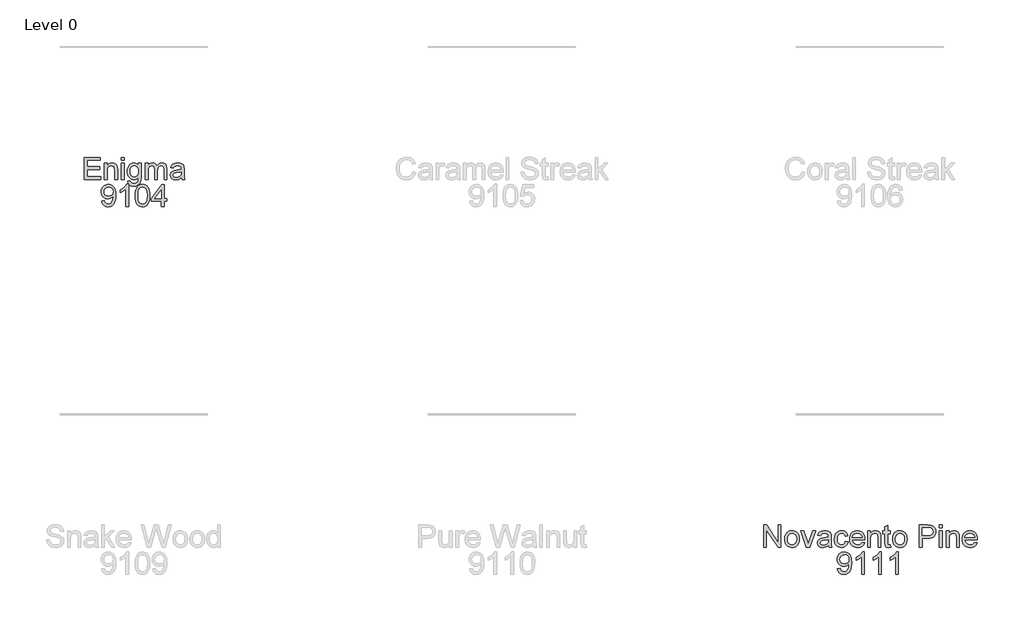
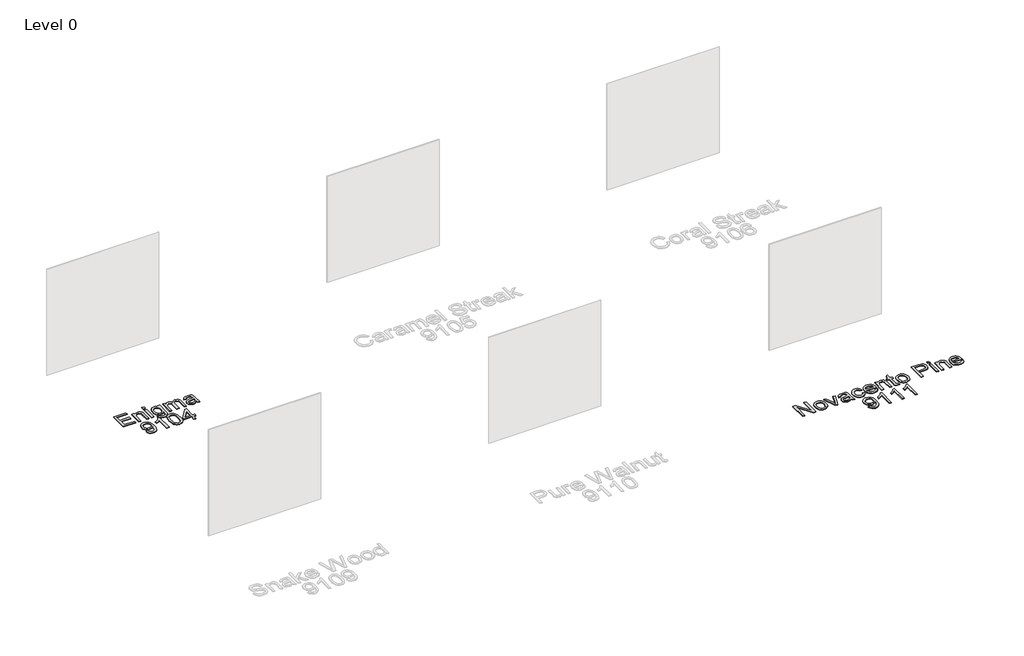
# One storey, part 8 of 10: 2 proxies.
"""IFC4 building model written with IfcOpenShell, lengths in millimetres."""

import ifcopenshell
import ifcopenshell.guid

model = None  # the IFC model being written
_history = None  # IfcOwnerHistory: only IFC2X3 demands one
_inside = {}  # id of a spatial element -> (the spatial element, [elements in it])
_under = {}  # id of a project, library or spatial element -> (it, [spatial elements below it])
_declared = {}  # id of a project -> (the project, [libraries it declares])
_typed = {}  # id of a type object -> (the type object, [elements of that type])
_made_of = {}  # id of a material, layer set ... -> (it, [elements and type objects made of it])


def new_model(schema):
    """Start an empty IFC model of exactly this schema.

    Asked for "IFC4X3", IfcOpenShell would pick the latest addendum, in which some entities
    have other attributes; the version numbers below select the first issue.
    IFC2X3 requires an IfcOwnerHistory on every rooted entity: one is made here for all.
    """
    global model, _history
    if schema == "IFC4X3":
        model = ifcopenshell.file(schema_version=(4, 3, 0, 0))
    else:
        model = ifcopenshell.file(schema=schema)
    _inside.clear()
    _under.clear()
    _declared.clear()
    _typed.clear()
    _made_of.clear()
    _history = None
    if model.schema == "IFC2X3":
        org = make("IfcOrganization", Name="unknown")
        user = make(
            "IfcPersonAndOrganization",
            ThePerson=make("IfcPerson", FamilyName="unknown"),
            TheOrganization=org,
        )
        app = make(
            "IfcApplication",
            ApplicationDeveloper=org,
            Version="unknown",
            ApplicationFullName="unknown",
            ApplicationIdentifier="unknown",
        )
        _history = make(
            "IfcOwnerHistory",
            OwningUser=user,
            OwningApplication=app,
            ChangeAction="ADDED",
            CreationDate=0,
        )
    return model


def make(cls, **values):
    """One entity of the class cls with the attributes given. An attribute that is None is left unset."""
    return model.create_entity(
        cls, **{name: value for name, value in values.items() if value is not None}
    )


def rooted(cls, **values):
    """An entity with a GlobalId (a new one), such as an element, a storey or a relation."""
    return make(cls, GlobalId=ifcopenshell.guid.new(), OwnerHistory=_history, **values)


def si_unit(unit_type, name, prefix=None):
    """IfcSIUnit, for example si_unit("LENGTHUNIT", "METRE", prefix="MILLI")."""
    return make("IfcSIUnit", UnitType=unit_type, Prefix=prefix, Name=name)


def assignment(units):
    """IfcUnitAssignment: the units of a project."""
    return None if units is None else make("IfcUnitAssignment", Units=units)


def point(xyz):
    """IfcCartesianPoint."""
    return None if xyz is None else make("IfcCartesianPoint", Coordinates=xyz)


def direction(xyz):
    """IfcDirection."""
    return None if xyz is None else make("IfcDirection", DirectionRatios=xyz)


def frame(location, z_axis=None, x_axis=None):
    """IfcAxis2Placement3D, a coordinate frame: its origin and axes. An axis left out is left unset."""
    return make(
        "IfcAxis2Placement3D",
        Location=point(location),
        Axis=direction(z_axis),
        RefDirection=direction(x_axis),
    )


def origin():
    """The frame at (0, 0, 0) with its axes left unset."""
    return frame((0.0, 0.0, 0.0))


def origin_with_axes():
    """The frame at (0, 0, 0) with the z axis (0, 0, 1) and the x axis (1, 0, 0) written out."""
    return frame((0.0, 0.0, 0.0), z_axis=(0.0, 0.0, 1.0), x_axis=(1.0, 0.0, 0.0))


def place(relative_to, where):
    """IfcLocalPlacement: puts the frame where relative to a parent placement (None: the world)."""
    return make(
        "IfcLocalPlacement", PlacementRelTo=relative_to, RelativePlacement=where
    )


def context(
    kind, dimensions, precision=None, world=None, true_north=None, identifier=None
):
    """IfcGeometricRepresentationContext, for example the 3D "Model" context."""
    return make(
        "IfcGeometricRepresentationContext",
        ContextIdentifier=identifier,
        ContextType=kind,
        CoordinateSpaceDimension=dimensions,
        Precision=precision,
        WorldCoordinateSystem=world,
        TrueNorth=true_north,
    )


def project(units=None, contexts=None):
    """IfcProject with its units and contexts."""
    return rooted(
        "IfcProject",
        Name="project",
        RepresentationContexts=contexts,
        UnitsInContext=assignment(units),
    )


def spatial(cls, under=None, at=None, **own):
    """A site, building, storey or space (cls), placed at a placement, below another one or the project."""
    s = rooted(cls, ObjectPlacement=at, **own)
    if under is not None:
        _under.setdefault(under.id(), (under, []))[1].append(s)
    return s


def polyline(points):
    """IfcPolyline through the points."""
    return make("IfcPolyline", Points=[point(p) for p in points])


def outline(outer, holes=None, kind="AREA"):
    """IfcArbitraryClosedProfileDef: a profile drawn as a closed curve; with holes, ...WithVoids."""
    if holes is None:
        return make("IfcArbitraryClosedProfileDef", ProfileType=kind, OuterCurve=outer)
    return make(
        "IfcArbitraryProfileDefWithVoids",
        ProfileType=kind,
        OuterCurve=outer,
        InnerCurves=holes,
    )


def extrude(swept, where, along, depth):
    """IfcExtrudedAreaSolid: the profile swept, set in the frame where, extruded along a direction by depth."""
    return make(
        "IfcExtrudedAreaSolid",
        SweptArea=swept,
        Position=where,
        ExtrudedDirection=direction(along),
        Depth=depth,
    )


def shape(context_of_items, identifier, shape_type, items):
    """IfcShapeRepresentation: the items that make up one representation, for example the "Body"."""
    return make(
        "IfcShapeRepresentation",
        ContextOfItems=context_of_items,
        RepresentationIdentifier=identifier,
        RepresentationType=shape_type,
        Items=items,
    )


def made_of(thing, what):
    """Note that an element or type object is made of a material, layer set ...; save() writes the relation."""
    if what is not None:
        _made_of.setdefault(what.id(), (what, []))[1].append(thing)
    return thing


def element(
    cls,
    number,
    at=None,
    inside=None,
    cuts=None,
    type_object=None,
    material=None,
    context=None,
    identifier="Body",
    shape_type=None,
    held_by="IfcProductDefinitionShape",
    body=None,
    shapes=None,
    **own,
):
    """One element of the class cls, such as IfcWall. Its Tag is "e" and its number.

    at: its placement. inside: the storey or other place that contains it. cuts: it is an
    opening in that element (IfcRelVoidsElement). A single representation is given by context,
    identifier, shape_type and body (its items); several are given by shapes. held_by: the class
    of the entity that holds the representations. save() writes the other relations.
    """
    e = rooted(cls, Tag="e%d" % number, ObjectPlacement=at, **own)
    if body is not None:
        shapes = [shape(context, identifier, shape_type, body)]
    if shapes is not None:
        e.Representation = make(held_by, Representations=shapes)
    if inside is not None:
        _inside.setdefault(inside.id(), (inside, []))[1].append(e)
    if cuts is not None:
        rooted(
            "IfcRelVoidsElement", RelatingBuildingElement=cuts, RelatedOpeningElement=e
        )
    if type_object is not None:
        _typed.setdefault(type_object.id(), (type_object, []))[1].append(e)
    return made_of(e, material)


def aggregate(whole, parts):
    """IfcRelAggregates: a whole, such as a stair, and the parts it consists of."""
    return rooted("IfcRelAggregates", RelatingObject=whole, RelatedObjects=parts)


def save(model, path):
    """Write the relations noted so far, then the file.

    IfcRelAggregates (storeys below a building ...), IfcRelContainedInSpatialStructure (elements
    in a storey), IfcRelDefinesByType, IfcRelAssociatesMaterial and IfcRelDeclares: one each for
    every whole, place, type object, material and project.
    """
    for whole, parts in _under.values():
        aggregate(whole, parts)
    for where, things in _inside.values():
        rooted(
            "IfcRelContainedInSpatialStructure",
            RelatedElements=things,
            RelatingStructure=where,
        )
    for kind, things in _typed.values():
        rooted("IfcRelDefinesByType", RelatedObjects=things, RelatingType=kind)
    for what, things in _made_of.values():
        rooted("IfcRelAssociatesMaterial", RelatedObjects=things, RelatingMaterial=what)
    for by, libraries in _declared.values():
        rooted("IfcRelDeclares", RelatingContext=by, RelatedDefinitions=libraries)
    model.write(path)


model = new_model("IFC4")

# Units and contexts
model_context = context("Model", 3, world=origin())
ifc_project = project(units=[si_unit("LENGTHUNIT", "METRE", prefix="MILLI")], contexts=[model_context])

# Site, building, storey
site = spatial("IfcSite", under=ifc_project)
building = spatial("IfcBuilding", under=site)
storey = spatial("IfcBuildingStorey", under=building, Name="Level 0", Elevation=0.0)

# Proxies
placement = place(None, origin())
element("IfcBuildingElementProxy", 1, Name="300mm Arial", ObjectType="300mm Arial", at=placement, inside=storey, context=model_context, shape_type="SweptSolid", body=[
    extrude(outline(polyline([(9108.421745, -12002.860494), (9108.421745, -11701.4915635), (9148.7416117, -11701.4915635), (9306.1951056, -11940.2469784), (9306.1951056, -11701.4915635), (9343.8662219, -11701.4915635), (9343.8662219, -12002.860494), (9303.5463552, -12002.860494), (9146.0928613, -11764.0315027), (9146.0928613, -12002.860494), (9108.421745, -12002.860494)])), origin_with_axes(), (0.0, 0.0, 1.0), 10.0),
    extrude(outline(polyline([(9395.6640068, -11892.2015898), (9397.7011534, -11863.5389839), (9403.812593, -11838.8403064), (9413.9983258, -11818.1055575), (9428.2583516, -11801.334737), (9442.6149465, -11790.6155754), (9458.4614634, -11782.9590314), (9475.7979024, -11778.3651049), (9494.6242635, -11776.8337961), (9515.407297, -11778.698498), (9534.1991692, -11784.2926036), (9550.99988, -11793.6161129), (9565.8094296, -11806.669026), (9577.8966524, -11823.0098843), (9586.530383, -11842.1972296), (9591.7106213, -11864.2310619), (9593.4373674, -11889.1113811), (9590.3839469, -11927.1687735), (9581.2236852, -11956.1394806), (9566.2232968, -11977.8353213), (9545.6494963, -11994.0681143), (9521.2129347, -12004.1940662), (9494.6242635, -12007.5693835), (9473.5377274, -12005.7115794), (9454.5711113, -12000.1381672), (9437.7244152, -11990.8491468), (9422.9976391, -11977.8445183), (9411.039175, -11961.3450108), (9402.4974149, -11941.5713536), (9397.3723588, -11918.5235466), (9395.6640068, -11892.2015898)]), holes=[polyline([(9433.3351231, -11892.1280134), (9437.6945248, -11926.2214773), (9450.7727297, -11950.5108861), (9470.4544164, -11965.0514219), (9494.6242635, -11969.8982672), (9518.683746, -11965.0238308), (9538.3286445, -11950.4005215), (9551.4068495, -11925.789216), (9555.7662511, -11890.950791), (9551.3792583, -11857.8506085), (9538.2182799, -11833.8922936), (9518.5457903, -11819.3517577), (9494.6242635, -11814.5049125), (9470.4544164, -11819.3333636), (9450.7727297, -11833.8187172), (9437.6945248, -11858.0529436), (9433.3351231, -11892.1280134)])]), origin_with_axes(), (0.0, 0.0, 1.0), 10.0),
    extrude(outline(polyline([(9690.1167558, -12002.860494), (9612.2729256, -11781.5426857), (9652.1513339, -11781.5426857), (9699.3138056, -11914.1273567), (9713.5140507, -11958.7146546), (9727.4199901, -11916.6289543), (9774.8767674, -11781.5426857), (9814.7551757, -11781.5426857), (9737.8678387, -12002.860494), (9690.1167558, -12002.860494)])), origin_with_axes(), (0.0, 0.0, 1.0), 10.0),
    extrude(outline(polyline([(9988.9840886, -11974.6071568), (9970.985462, -11990.0398064), (9952.4534065, -12000.1381672), (9932.9648578, -12005.7115794), (9912.0967516, -12007.5693835), (9880.6152499, -12003.0996173), (9857.392699, -11989.6903186), (9843.0728923, -11969.3280501), (9838.2996234, -11943.9993748), (9840.1022452, -11928.3827841), (9845.5101105, -11914.2009331), (9853.8518348, -11902.0608273), (9864.4560333, -11892.5694718), (9890.8331723, -11880.2086368), (9923.4275171, -11874.5432541), (9961.944762, -11868.5835657), (9988.7633594, -11861.5938078), (9988.9840886, -11853.2060983), (9986.3905206, -11836.3938912), (9978.6098164, -11825.3942195), (9961.208998, -11817.2272392), (9936.9655745, -11814.5049125), (9914.5247728, -11816.3167313), (9898.8529998, -11821.7521878), (9888.1660279, -11831.8045633), (9880.6796293, -11847.4671392), (9843.008513, -11842.7582497), (9849.5476154, -11822.156858), (9859.3056853, -11805.9700502), (9873.1932307, -11793.590821), (9892.1207593, -11784.4121652), (9915.2697339, -11778.7283884), (9941.8216169, -11776.8337961), (9967.288248, -11778.5076592), (9987.4757725, -11783.5292485), (10002.69689, -11791.0800264), (10013.2643003, -11800.3414556), (10020.2724523, -11811.7917827), (10024.815795, -11825.9092543), (10026.6552049, -11858.8714811), (10026.6552049, -11905.7396473), (10028.5681913, -11971.1858542), (10036.072984, -12002.860494), (9998.4018677, -12002.860494), (9988.9840886, -11974.6071568)]), holes=[polyline([(9988.9840886, -11899.2649241), (9928.209983, -11910.8164188), (9895.7995793, -11916.9232599), (9881.1210877, -11926.8560738), (9875.9707397, -11941.3506244), (9878.7758399, -11952.5526311), (9887.1911406, -11961.7312869), (9901.0327006, -11967.8565221), (9920.1165791, -11969.8982672), (9940.3500889, -11967.64499), (9958.2291538, -11960.8851583), (9972.7237045, -11950.9247533), (9982.8036711, -11939.069756), (9987.2734374, -11926.8560738), (9988.7633594, -11909.933502), (9988.9840886, -11899.2649241)])]), origin_with_axes(), (0.0, 0.0, 1.0), 10.0),
    extrude(outline(polyline([(10219.719676, -11922.8093718), (10257.3907923, -11927.5182614), (10246.8877614, -11961.0231141), (10227.1508923, -11986.3425924), (10200.0379893, -12002.2626857), (10167.4068563, -12007.5693835), (10146.2789335, -12005.7184772), (10127.33531, -12000.1657584), (10110.5759858, -11990.9112269), (10096.000961, -11977.9548829), (10084.2034453, -11961.5404481), (10075.7766484, -11941.9116444), (10070.7205702, -11919.0684718), (10069.0352108, -11893.0109302), (10071.9138874, -11859.4876834), (10080.5499172, -11830.4342028), (10095.081256, -11806.9725286), (10115.6458596, -11790.2247008), (10140.247968, -11780.1815223), (10166.8918215, -11776.8337961), (10198.7228111, -11781.4323211), (10224.1710482, -11795.2278959), (10242.4271922, -11817.4847566), (10252.6819028, -11847.4671392), (10215.0107865, -11852.1760288), (10208.1773784, -11835.7409006), (10197.5363917, -11823.9594797), (10183.6764375, -11816.8685543), (10167.1861271, -11814.5049125), (10142.8415361, -11819.1586197), (10123.5185343, -11833.1197414), (10110.9093789, -11857.1424357), (10106.7063271, -11891.9808606), (10110.8174084, -11927.2883351), (10123.1506523, -11951.3938029), (10142.1241662, -11965.2721511), (10166.1560575, -11969.8982672), (10185.6630003, -11967.0103936), (10201.6566701, -11958.3467726), (10213.2909381, -11943.6866751), (10219.719676, -11922.8093718)])), origin_with_axes(), (0.0, 0.0, 1.0), 10.0),
    extrude(outline(polyline([(10445.3049155, -11936.9360404), (10482.2402678, -11941.64493), (10468.9321366, -11969.4752029), (10447.6961484, -11990.2789297), (10419.0105499, -12003.2467701), (10383.3535875, -12007.5693835), (10359.9792852, -12005.7046817), (10339.1525657, -12000.1105761), (10320.8734291, -11990.7870668), (10305.1418753, -11977.7341537), (10292.4913332, -11961.3151204), (10283.4552317, -11941.8932503), (10278.0335708, -11919.4685435), (10276.2263505, -11894.0409998), (10278.0519649, -11867.7512327), (10283.5288081, -11844.5792656), (10292.6568801, -11824.5250983), (10305.4361809, -11807.5887309), (10321.126348, -11794.133447), (10338.9870189, -11784.5225298), (10359.0181935, -11778.7559796), (10381.2198719, -11776.8337961), (10402.7064797, -11778.751381), (10422.1375468, -11784.5041357), (10439.5130733, -11794.0920602), (10454.8330591, -11807.5151545), (10467.3387477, -11824.4147337), (10476.2713824, -11844.4321128), (10481.6309632, -11867.5672917), (10483.4174902, -11893.8202706), (10483.196761, -11903.9738137), (10313.8974668, -11903.9738137), (10320.4181751, -11932.1719686), (10335.5657163, -11952.902119), (10357.4271039, -11965.6492302), (10384.0893515, -11969.8982672), (10404.1389202, -11967.9300985), (10421.0247038, -11962.0255925), (10434.7467022, -11951.8168672), (10445.3049155, -11936.9360404)]), holes=[polyline([(10313.8974668, -11866.3026974), (10445.7463739, -11866.3026974), (10440.6512082, -11846.4002814), (10430.663212, -11832.1632482), (10408.7006569, -11818.9194964), (10381.0727191, -11814.5049125), (10355.6796644, -11818.0273826), (10334.6827995, -11828.5947929), (10320.0870813, -11845.0667092), (10313.8974668, -11866.3026974)])]), origin_with_axes(), (0.0, 0.0, 1.0), 10.0),
    extrude(outline(polyline([(10521.0886065, -12002.860494), (10521.0886065, -11781.5426857), (10558.7597228, -11781.5426857), (10558.7597228, -11812.4447733), (10571.8471247, -11796.8649708), (10587.564883, -11785.7365404), (10605.9129975, -11779.0594822), (10626.8914683, -11776.8337961), (10645.460312, -11778.6272209), (10662.4656572, -11784.0074951), (10676.6475081, -11792.303234), (10686.7458689, -11802.8430532), (10698.0398461, -11830.5445674), (10700.0264089, -11866.964885), (10700.0264089, -12002.860494), (10662.3552926, -12002.860494), (10662.3552926, -11872.0416565), (10658.0142851, -11838.7115477), (10652.0086115, -11828.7879309), (10642.6736059, -11821.0900002), (10630.708244, -11816.1511844), (10616.8115016, -11814.5049125), (10594.7477789, -11818.2021265), (10575.9398119, -11829.2937687), (10568.4235229, -11838.3482643), (10563.0547451, -11850.7228949), (10558.7597228, -11885.4325611), (10558.7597228, -12002.860494), (10521.0886065, -12002.860494)])), origin_with_axes(), (0.0, 0.0, 1.0), 10.0),
    extrude(outline(polyline([(10831.875316, -11971.4433716), (10836.5842055, -12003.96414), (10808.4044447, -12007.5693835), (10790.3230446, -12006.005885), (10776.8401695, -12001.3153896), (10767.3120258, -11994.0865084), (10761.0948201, -11984.9078526), (10757.6735176, -11969.1441091), (10756.5330834, -11942.1599648), (10756.5330834, -11819.213802), (10728.2797461, -11819.213802), (10728.2797461, -11781.5426857), (10756.5330834, -11781.5426857), (10756.5330834, -11727.758338), (10794.2041997, -11705.6118419), (10794.2041997, -11781.5426857), (10831.875316, -11781.5426857), (10831.875316, -11819.213802), (10794.2041997, -11819.213802), (10794.2041997, -11941.0563188), (10796.1907625, -11960.4804881), (10802.6286974, -11967.3598814), (10815.467779, -11969.8982672), (10831.875316, -11971.4433716)])), origin_with_axes(), (0.0, 0.0, 1.0), 10.0),
    extrude(outline(polyline([(10860.1286532, -11892.2015898), (10862.1657998, -11863.5389839), (10868.2772394, -11838.8403064), (10878.4629722, -11818.1055575), (10892.722998, -11801.334737), (10907.0795929, -11790.6155754), (10922.9261098, -11782.9590314), (10940.2625488, -11778.3651049), (10959.0889099, -11776.8337961), (10979.8719434, -11778.698498), (10998.6638156, -11784.2926036), (11015.4645264, -11793.6161129), (11030.274076, -11806.669026), (11042.3612988, -11823.0098843), (11050.9950294, -11842.1972296), (11056.1752677, -11864.2310619), (11057.9020138, -11889.1113811), (11054.8485933, -11927.1687735), (11045.6883316, -11956.1394806), (11030.6879432, -11977.8353213), (11010.1141427, -11994.0681143), (10985.6775811, -12004.1940662), (10959.0889099, -12007.5693835), (10938.0023738, -12005.7115794), (10919.0357577, -12000.1381672), (10902.1890616, -11990.8491468), (10887.4622855, -11977.8445183), (10875.5038214, -11961.3450108), (10866.9620613, -11941.5713536), (10861.8370052, -11918.5235466), (10860.1286532, -11892.2015898)]), holes=[polyline([(10897.7997695, -11892.1280134), (10902.1591712, -11926.2214773), (10915.2373761, -11950.5108861), (10934.9190628, -11965.0514219), (10959.0889099, -11969.8982672), (10983.1483924, -11965.0238308), (11002.7932909, -11950.4005215), (11015.8714959, -11925.789216), (11020.2308975, -11890.950791), (11015.8439047, -11857.8506085), (11002.6829263, -11833.8922936), (10983.0104367, -11819.3517577), (10959.0889099, -11814.5049125), (10934.9190628, -11819.3333636), (10915.2373761, -11833.8187172), (10902.1591712, -11858.0529436), (10897.7997695, -11892.1280134)])]), origin_with_axes(), (0.0, 0.0, 1.0), 10.0),
    extrude(outline(polyline([(11222.7131477, -12002.860494), (11222.7131477, -11701.4915635), (11334.4021214, -11701.4915635), (11379.4308776, -11704.3610431), (11399.5080375, -11709.7229232), (11416.0351361, -11718.4509235), (11429.3432673, -11730.9405172), (11439.7635248, -11747.5871775), (11446.4957653, -11767.222879), (11448.7398455, -11788.6795964), (11447.2246315, -11807.1794622), (11442.6789896, -11824.198603), (11435.1029198, -11839.7370188), (11424.496422, -11853.7947095), (11409.9351928, -11865.4473717), (11390.4949286, -11873.7707019), (11366.1756295, -11878.7647), (11336.9772954, -11880.429366), (11260.384264, -11880.429366), (11260.384264, -12002.860494), (11222.7131477, -12002.860494)]), holes=[polyline([(11260.384264, -11842.7582497), (11339.1845873, -11842.7582497), (11372.5882725, -11839.3001589), (11394.6611922, -11828.9258867), (11406.9668449, -11812.2792264), (11411.0687292, -11790.0039716), (11408.6499051, -11773.0813998), (11401.3934327, -11758.8075784), (11390.200623, -11748.0654241), (11375.9727869, -11741.7378538), (11338.3016705, -11739.1626798), (11260.384264, -11739.1626798), (11260.384264, -11842.7582497)])]), origin_with_axes(), (0.0, 0.0, 1.0), 10.0),
    extrude(outline(polyline([(11495.8287409, -11739.1626798), (11495.8287409, -11701.4915635), (11533.4998572, -11701.4915635), (11533.4998572, -11739.1626798), (11495.8287409, -11739.1626798)])), origin_with_axes(), (0.0, 0.0, 1.0), 10.0),
    extrude(outline(polyline([(11495.8287409, -12002.860494), (11495.8287409, -11781.5426857), (11533.4998572, -11781.5426857), (11533.4998572, -12002.860494), (11495.8287409, -12002.860494)])), origin_with_axes(), (0.0, 0.0, 1.0), 10.0),
    extrude(outline(polyline([(11590.0065316, -12002.860494), (11590.0065316, -11781.5426857), (11627.677648, -11781.5426857), (11627.677648, -11812.4447733), (11640.7650499, -11796.8649708), (11656.4828082, -11785.7365404), (11674.8309227, -11779.0594822), (11695.8093935, -11776.8337961), (11714.3782372, -11778.6272209), (11731.3835824, -11784.0074951), (11745.5654333, -11792.303234), (11755.6637941, -11802.8430532), (11766.9577713, -11830.5445674), (11768.9443341, -11866.964885), (11768.9443341, -12002.860494), (11731.2732178, -12002.860494), (11731.2732178, -11872.0416565), (11726.9322103, -11838.7115477), (11720.9265367, -11828.7879309), (11711.5915311, -11821.0900002), (11699.6261692, -11816.1511844), (11685.7294268, -11814.5049125), (11663.6657041, -11818.2021265), (11644.8577371, -11829.2937687), (11637.3414481, -11838.3482643), (11631.9726702, -11850.7228949), (11627.677648, -11885.4325611), (11627.677648, -12002.860494), (11590.0065316, -12002.860494)])), origin_with_axes(), (0.0, 0.0, 1.0), 10.0),
    extrude(outline(polyline([(11975.6940154, -11936.9360404), (12012.6293677, -11941.64493), (11999.3212365, -11969.4752029), (11978.0852484, -11990.2789297), (11949.3996498, -12003.2467701), (11913.7426874, -12007.5693835), (11890.3683851, -12005.7046817), (11869.5416657, -12000.1105761), (11851.262529, -11990.7870668), (11835.5309752, -11977.7341537), (11822.8804331, -11961.3151204), (11813.8443316, -11941.8932503), (11808.4226707, -11919.4685435), (11806.6154504, -11894.0409998), (11808.4410648, -11867.7512327), (11813.917908, -11844.5792656), (11823.04598, -11824.5250983), (11835.8252808, -11807.5887309), (11851.5154479, -11794.133447), (11869.3761188, -11784.5225298), (11889.4072934, -11778.7559796), (11911.6089718, -11776.8337961), (11933.0955796, -11778.751381), (11952.5266467, -11784.5041357), (11969.9021732, -11794.0920602), (11985.2221591, -11807.5151545), (11997.7278476, -11824.4147337), (12006.6604823, -11844.4321128), (12012.0200632, -11867.5672917), (12013.8065901, -11893.8202706), (12013.5858609, -11903.9738137), (11844.2865667, -11903.9738137), (11850.8072751, -11932.1719686), (11865.9548162, -11952.902119), (11887.8162038, -11965.6492302), (11914.4784514, -11969.8982672), (11934.5280201, -11967.9300985), (11951.4138037, -11962.0255925), (11965.1358021, -11951.8168672), (11975.6940154, -11936.9360404)]), holes=[polyline([(11844.2865667, -11866.3026974), (11976.1354738, -11866.3026974), (11971.0403082, -11846.4002814), (11961.052312, -11832.1632482), (11939.0897569, -11818.9194964), (11911.461819, -11814.5049125), (11886.0687643, -11818.0273826), (11865.0718994, -11828.5947929), (11850.4761813, -11845.0667092), (11844.2865667, -11866.3026974)])]), origin_with_axes(), (0.0, 0.0, 1.0), 10.0),
    extrude(outline(polyline([(10111.4152166, -12293.4427149), (10149.0863329, -12288.7338254), (10155.5242679, -12310.1169663), (10166.0089047, -12324.6758963), (10180.2827261, -12333.0360146), (10198.0882147, -12335.8227207), (10214.0634903, -12334.029296), (10228.5856321, -12328.6490218), (10240.6521615, -12320.2705094), (10249.2606002, -12309.4823699), (10261.5846471, -12276.7408723), (10267.0293006, -12233.0364913), (10266.8085714, -12225.6788514), (10253.7579576, -12241.6081418), (10236.679036, -12254.2264942), (10216.8042112, -12262.4486568), (10195.3658879, -12265.1893777), (10177.4707281, -12263.5155146), (10161.0149066, -12258.4939254), (10145.9984234, -12250.12461), (10132.4212786, -12238.4075684), (10121.1709873, -12223.9544045), (10113.135065, -12207.3767221), (10108.3135116, -12188.6745212), (10106.7063271, -12167.8478018), (10108.3916865, -12146.326705), (10113.4477647, -12127.0129003), (10121.8745616, -12109.9063875), (10133.6720773, -12095.0071667), (10148.0079788, -12082.9360387), (10164.0499331, -12074.3138045), (10181.7979401, -12069.1404639), (10201.2519999, -12067.4160171), (10229.3489872, -12071.3523544), (10254.925983, -12083.1613665), (10276.318321, -12102.254442), (10291.8613353, -12128.0429699), (10301.3250996, -12163.6907352), (10304.4796877, -12212.3615232), (10301.3342966, -12263.96617), (10291.8981235, -12303.8537754), (10276.2539416, -12333.8269609), (10254.4845246, -12355.6883485), (10227.5279714, -12369.0424649), (10196.3223811, -12373.4938371), (10164.1143124, -12368.2423216), (10138.4177551, -12352.4877751), (10120.4467196, -12327.2234791), (10111.4152166, -12293.4427149)]), holes=[polyline([(10266.8085714, -12166.964885), (10262.7434754, -12141.4338745), (10250.5481872, -12121.788976), (10231.6206586, -12109.262594), (10207.358841, -12105.0871334), (10182.1957125, -12109.5844908), (10162.0357792, -12123.0765629), (10148.7920273, -12143.7239399), (10144.3774434, -12169.6872117), (10148.552904, -12192.964945), (10161.079286, -12211.4418182), (10180.7425786, -12223.4991506), (10206.3287714, -12227.5182614), (10230.3974509, -12223.4991506), (10249.775635, -12211.4418182), (10262.5503373, -12192.2843633), (10266.8085714, -12166.964885)])]), origin_with_axes(), (0.0, 0.0, 1.0), 10.0),
    extrude(outline(polyline([(10478.7086006, -12368.7849475), (10441.0374843, -12368.7849475), (10441.0374843, -12133.9290818), (10405.3529308, -12159.3497277), (10365.6952517, -12178.3692268), (10365.6952517, -12142.7582497), (10395.2821612, -12126.6634124), (10420.9143392, -12107.5151545), (10441.1202578, -12087.1528861), (10454.4283889, -12067.4160171), (10478.7086006, -12067.4160171), (10478.7086006, -12368.7849475)])), origin_with_axes(), (0.0, 0.0, 1.0), 10.0),
    extrude(outline(polyline([(10709.444188, -12368.7849475), (10671.7730717, -12368.7849475), (10671.7730717, -12133.9290818), (10636.0885182, -12159.3497277), (10596.4308391, -12178.3692268), (10596.4308391, -12142.7582497), (10626.0177485, -12126.6634124), (10651.6499266, -12107.5151545), (10671.8558451, -12087.1528861), (10685.1639763, -12067.4160171), (10709.444188, -12067.4160171), (10709.444188, -12368.7849475)])), origin_with_axes(), (0.0, 0.0, 1.0), 10.0),
    extrude(outline(polyline([(10940.1797754, -12368.7849475), (10902.5086591, -12368.7849475), (10902.5086591, -12133.9290818), (10866.8241055, -12159.3497277), (10827.1664265, -12178.3692268), (10827.1664265, -12142.7582497), (10856.7533359, -12126.6634124), (10882.3855139, -12107.5151545), (10902.5914325, -12087.1528861), (10915.8995637, -12067.4160171), (10940.1797754, -12067.4160171), (10940.1797754, -12368.7849475)])), origin_with_axes(), (0.0, 0.0, 1.0), 10.0),
])
element("IfcBuildingElementProxy", 2, Name="300mm Arial", ObjectType="300mm Arial", at=placement, inside=storey, context=model_context, shape_type="SweptSolid", body=[
    extrude(outline(polyline([(-124.0292603, -7002.860494), (-124.0292603, -6701.4915635), (92.5796585, -6701.4915635), (92.5796585, -6739.1626798), (-86.358144, -6739.1626798), (-86.358144, -6828.6315811), (83.1618794, -6828.6315811), (83.1618794, -6866.3026974), (-86.358144, -6866.3026974), (-86.358144, -6965.1893777), (97.288548, -6965.1893777), (97.288548, -7002.860494), (-124.0292603, -7002.860494)])), origin_with_axes(), (0.0, 0.0, 1.0), 10.0),
    extrude(outline(polyline([(149.0863329, -7002.860494), (149.0863329, -6781.5426857), (186.7574492, -6781.5426857), (186.7574492, -6812.4447733), (199.8448512, -6796.8649708), (215.5626095, -6785.7365404), (233.910724, -6779.0594822), (254.8891948, -6776.8337961), (273.4580385, -6778.6272209), (290.4633837, -6784.0074951), (304.6452346, -6792.303234), (314.7435954, -6802.8430532), (326.0375726, -6830.5445674), (328.0241354, -6866.964885), (328.0241354, -7002.860494), (290.3530191, -7002.860494), (290.3530191, -6872.0416565), (286.0120115, -6838.7115477), (280.006338, -6828.7879309), (270.6713323, -6821.0900002), (258.7059705, -6816.1511844), (244.8092281, -6814.5049125), (222.7455054, -6818.2021265), (203.9375384, -6829.2937687), (196.4212494, -6838.3482643), (191.0524715, -6850.7228949), (186.7574492, -6885.4325611), (186.7574492, -7002.860494), (149.0863329, -7002.860494)])), origin_with_axes(), (0.0, 0.0, 1.0), 10.0),
    extrude(outline(polyline([(379.8219203, -6739.1626798), (379.8219203, -6701.4915635), (417.4930366, -6701.4915635), (417.4930366, -6739.1626798), (379.8219203, -6739.1626798)])), origin_with_axes(), (0.0, 0.0, 1.0), 10.0),
    extrude(outline(polyline([(379.8219203, -7002.860494), (379.8219203, -6781.5426857), (417.4930366, -6781.5426857), (417.4930366, -7002.860494), (379.8219203, -7002.860494)])), origin_with_axes(), (0.0, 0.0, 1.0), 10.0),
    extrude(outline(polyline([(464.581932, -7021.6960521), (502.2530483, -7026.4049417), (506.4101149, -7038.1771655), (514.4667305, -7046.2705694), (530.3040504, -7052.5613515), (551.0342009, -7054.6582789), (573.1439088, -7052.28544), (589.588234, -7045.1669234), (600.9925758, -7033.7625816), (607.9823337, -7018.532267), (610.5575077, -6974.6071568), (598.0219287, -6986.9679918), (584.0332158, -6995.7971597), (568.5913691, -7001.0946604), (551.6963885, -7002.860494), (531.0421137, -7000.8049533), (512.8572468, -6994.6383314), (497.1417878, -6984.3606281), (483.8957368, -6969.9718436), (473.385808, -6952.708981), (465.878716, -6933.8090435), (461.3744609, -6913.2720311), (459.8730425, -6891.0979438), (462.5677781, -6860.6832999), (470.6519849, -6832.7150712), (483.8405545, -6809.0142737), (501.8483781, -6791.4019232), (524.0592536, -6780.4758279), (549.8569785, -6776.8337961), (567.4739275, -6778.8939353), (583.4629987, -6785.0743528), (597.8241921, -6795.3750487), (610.5575077, -6809.7960229), (610.5575077, -6781.5426857), (648.228624, -6781.5426857), (648.228624, -6972.620594), (645.65345, -7016.7388422), (637.9279281, -7045.7923228), (624.619797, -7065.0601423), (605.2967952, -7079.8214074), (580.381987, -7089.2023982), (550.2984369, -7092.3293952), (515.2484798, -7087.9240083), (487.6481331, -7074.7078476), (477.2531675, -7064.7865301), (469.9438121, -7052.644125), (465.7200669, -7038.2806323), (464.581932, -7021.6960521)]), holes=[polyline([(497.5441588, -6888.5227699), (501.5632696, -6923.0760863), (513.620602, -6946.8320661), (531.7479873, -6960.6000498), (553.9772568, -6965.1893777), (576.0409795, -6960.6276409), (594.2603353, -6946.9424307), (606.4832146, -6923.4899535), (610.5575077, -6889.6264159), (606.3636529, -6856.9676917), (593.7820887, -6833.4508352), (575.2960185, -6819.2413931), (553.3886456, -6814.5049125), (531.876746, -6819.1678167), (513.8413312, -6833.1565296), (501.6184519, -6856.3238983), (497.5441588, -6888.5227699)])]), origin_with_axes(), (0.0, 0.0, 1.0), 10.0),
    extrude(outline(polyline([(704.7352985, -7002.860494), (704.7352985, -6781.5426857), (742.4064148, -6781.5426857), (742.4064148, -6817.9630032), (753.7371802, -6801.2335695), (768.3053072, -6788.1277734), (785.6141551, -6779.6572905), (805.1670831, -6776.8337961), (826.1179628, -6779.7124728), (842.9117758, -6788.3485026), (855.4565519, -6802.1716686), (863.6603204, -6820.6117536), (877.3915158, -6801.4588972), (893.0540918, -6787.7782855), (910.6480482, -6779.5699185), (930.1733851, -6776.8337961), (958.4911017, -6781.3863358), (979.4327843, -6795.0439549), (992.3730334, -6818.1745354), (996.6864498, -6851.1459592), (996.6864498, -7002.860494), (959.0153335, -7002.860494), (959.0153335, -6867.332767), (955.5204546, -6835.8788564), (950.6092299, -6827.2060383), (942.8653139, -6820.3910244), (932.9049089, -6815.9764404), (921.3442172, -6814.5049125), (900.9359635, -6818.2757029), (884.2985003, -6829.5880743), (873.2344493, -6849.2145787), (869.5464323, -6877.9277684), (869.5464323, -7002.860494), (831.875316, -7002.860494), (831.875316, -6863.1389122), (829.6956152, -6841.8385447), (823.1565127, -6826.6450183), (811.6510033, -6817.5399389), (794.5720817, -6814.5049125), (780.059137, -6816.5282634), (766.6866264, -6822.5983163), (755.6501666, -6832.5679184), (748.1453739, -6846.2899168), (743.8411545, -6865.3278101), (742.4064148, -6891.2450966), (742.4064148, -7002.860494), (704.7352985, -7002.860494)])), origin_with_axes(), (0.0, 0.0, 1.0), 10.0),
    extrude(outline(polyline([(1194.4598104, -6974.6071568), (1176.4611838, -6990.0398064), (1157.9291283, -7000.1381672), (1138.4405796, -7005.7115794), (1117.5724734, -7007.5693835), (1086.0909717, -7003.0996173), (1062.8684208, -6989.6903186), (1048.5486141, -6969.3280501), (1043.7753452, -6943.9993748), (1045.577967, -6928.3827841), (1050.9858323, -6914.2009331), (1059.3275566, -6902.0608273), (1069.9317551, -6892.5694718), (1096.3088941, -6880.2086368), (1128.9032389, -6874.5432541), (1167.4204838, -6868.5835657), (1194.2390812, -6861.5938078), (1194.4598104, -6853.2060983), (1191.8662424, -6836.3938912), (1184.0855382, -6825.3942195), (1166.6847198, -6817.2272392), (1142.4412963, -6814.5049125), (1120.0004946, -6816.3167313), (1104.3287216, -6821.7521878), (1093.6417497, -6831.8045633), (1086.1553511, -6847.4671392), (1048.4842347, -6842.7582497), (1055.0233372, -6822.156858), (1064.7814071, -6805.9700502), (1078.6689525, -6793.590821), (1097.5964811, -6784.4121652), (1120.7454557, -6778.7283884), (1147.2973387, -6776.8337961), (1172.7639698, -6778.5076592), (1192.9514943, -6783.5292485), (1208.1726118, -6791.0800264), (1218.7400221, -6800.3414556), (1225.7481741, -6811.7917827), (1230.2915168, -6825.9092543), (1232.1309267, -6858.8714811), (1232.1309267, -6905.7396473), (1234.0439131, -6971.1858542), (1241.5487058, -7002.860494), (1203.8775895, -7002.860494), (1194.4598104, -6974.6071568)]), holes=[polyline([(1194.4598104, -6899.2649241), (1133.6857048, -6910.8164188), (1101.2753011, -6916.9232599), (1086.5968094, -6926.8560738), (1081.4464615, -6941.3506244), (1084.2515617, -6952.5526311), (1092.6668624, -6961.7312869), (1106.5084224, -6967.8565221), (1125.5923009, -6969.8982672), (1145.8258107, -6967.64499), (1163.7048756, -6960.8851583), (1178.1994262, -6950.9247533), (1188.2793929, -6939.069756), (1192.7491592, -6926.8560738), (1194.2390812, -6909.933502), (1194.4598104, -6899.2649241)])]), origin_with_axes(), (0.0, 0.0, 1.0), 10.0),
    extrude(outline(polyline([(111.4152166, -7293.4427149), (149.0863329, -7288.7338254), (155.5242679, -7310.1169663), (166.0089047, -7324.6758963), (180.2827261, -7333.0360146), (198.0882147, -7335.8227207), (214.0634903, -7334.029296), (228.5856321, -7328.6490218), (240.6521615, -7320.2705094), (249.2606002, -7309.4823699), (261.5846471, -7276.7408723), (267.0293006, -7233.0364913), (266.8085714, -7225.6788514), (253.7579576, -7241.6081418), (236.679036, -7254.2264942), (216.8042112, -7262.4486568), (195.3658879, -7265.1893777), (177.4707281, -7263.5155146), (161.0149066, -7258.4939254), (145.9984234, -7250.12461), (132.4212786, -7238.4075684), (121.1709873, -7223.9544045), (113.135065, -7207.3767221), (108.3135116, -7188.6745212), (106.7063271, -7167.8478018), (108.3916865, -7146.326705), (113.4477647, -7127.0129003), (121.8745616, -7109.9063875), (133.6720773, -7095.0071667), (148.0079788, -7082.9360387), (164.0499331, -7074.3138045), (181.7979401, -7069.1404639), (201.2519999, -7067.4160171), (229.3489872, -7071.3523544), (254.925983, -7083.1613665), (276.318321, -7102.254442), (291.8613353, -7128.0429699), (301.3250996, -7163.6907352), (304.4796877, -7212.3615232), (301.3342966, -7263.96617), (291.8981235, -7303.8537754), (276.2539416, -7333.8269609), (254.4845246, -7355.6883485), (227.5279714, -7369.0424649), (196.3223811, -7373.4938371), (164.1143124, -7368.2423216), (138.4177551, -7352.4877751), (120.4467196, -7327.2234791), (111.4152166, -7293.4427149)]), holes=[polyline([(266.8085714, -7166.964885), (262.7434754, -7141.4338745), (250.5481872, -7121.788976), (231.6206586, -7109.262594), (207.358841, -7105.0871334), (182.1957125, -7109.5844908), (162.0357792, -7123.0765629), (148.7920273, -7143.7239399), (144.3774434, -7169.6872117), (148.552904, -7192.964945), (161.079286, -7211.4418182), (180.7425786, -7223.4991506), (206.3287714, -7227.5182614), (230.3974509, -7223.4991506), (249.775635, -7211.4418182), (262.5503373, -7192.2843633), (266.8085714, -7166.964885)])]), origin_with_axes(), (0.0, 0.0, 1.0), 10.0),
    extrude(outline(polyline([(478.7086006, -7368.7849475), (441.0374843, -7368.7849475), (441.0374843, -7133.9290818), (405.3529308, -7159.3497277), (365.6952517, -7178.3692268), (365.6952517, -7142.7582497), (395.2821612, -7126.6634124), (420.9143392, -7107.5151545), (441.1202578, -7087.1528861), (454.4283889, -7067.4160171), (478.7086006, -7067.4160171), (478.7086006, -7368.7849475)])), origin_with_axes(), (0.0, 0.0, 1.0), 10.0),
    extrude(outline(polyline([(568.1775018, -7220.5285035), (570.9458139, -7172.2899768), (579.2507499, -7133.8187172), (593.0095365, -7104.5261133), (612.1394003, -7083.8235541), (636.7782969, -7071.5179013), (667.0641821, -7067.4160171), (690.277536, -7069.8440382), (711.0628688, -7077.1281017), (728.445293, -7088.983099), (741.4499216, -7105.1239216), (751.2723708, -7125.4126136), (759.1082573, -7149.7112194), (764.2402112, -7180.5673217), (765.9508625, -7220.5285035), (763.2101416, -7268.4911186), (754.987979, -7306.8704077), (741.3119658, -7336.1906027), (722.2096932, -7356.9759355), (697.5156143, -7369.3643617), (667.0641821, -7373.4938371), (646.3156376, -7371.7004123), (627.9215379, -7366.3201381), (611.8818829, -7357.3530145), (598.1966727, -7344.7990414), (585.0632854, -7322.1053209), (575.6822945, -7293.828991), (570.0537, -7259.9700519), (568.1775018, -7220.5285035)]), holes=[polyline([(605.8486182, -7220.4549271), (610.2632021, -7279.7115194), (615.781432, -7299.9795181), (623.5069539, -7314.0073184), (643.2254289, -7330.3688702), (667.0641821, -7335.8227207), (690.9029354, -7330.3504761), (710.6214104, -7313.933742), (718.3469323, -7299.8829491), (723.8651622, -7279.6195489), (728.2797461, -7220.4549271), (724.012315, -7162.5319069), (718.6780261, -7142.3305869), (711.2100216, -7127.9693935), (691.5283348, -7110.8076984), (666.6227238, -7105.0871334), (643.0414879, -7110.1271167), (624.0955651, -7125.2470667), (616.1125258, -7140.8820515), (610.4103549, -7161.9616898), (605.8486182, -7220.4549271)])]), origin_with_axes(), (0.0, 0.0, 1.0), 10.0),
    extrude(outline(polyline([(921.3442172, -7368.7849475), (921.3442172, -7298.1516044), (784.7864206, -7298.1516044), (784.7864206, -7260.4804881), (930.7619963, -7072.1249066), (959.0153335, -7072.1249066), (959.0153335, -7260.4804881), (996.6864498, -7260.4804881), (996.6864498, -7298.1516044), (959.0153335, -7298.1516044), (959.0153335, -7368.7849475), (921.3442172, -7368.7849475)]), holes=[polyline([(921.3442172, -7260.4804881), (921.3442172, -7144.0826249), (831.139552, -7260.4804881), (921.3442172, -7260.4804881)])]), origin_with_axes(), (0.0, 0.0, 1.0), 10.0),
])

save(model, "model.ifc")
